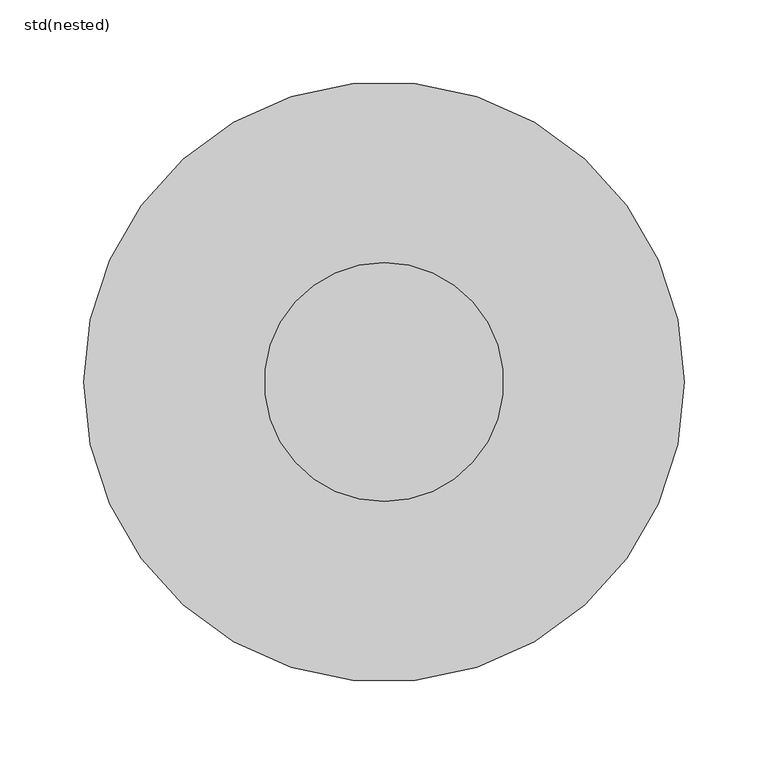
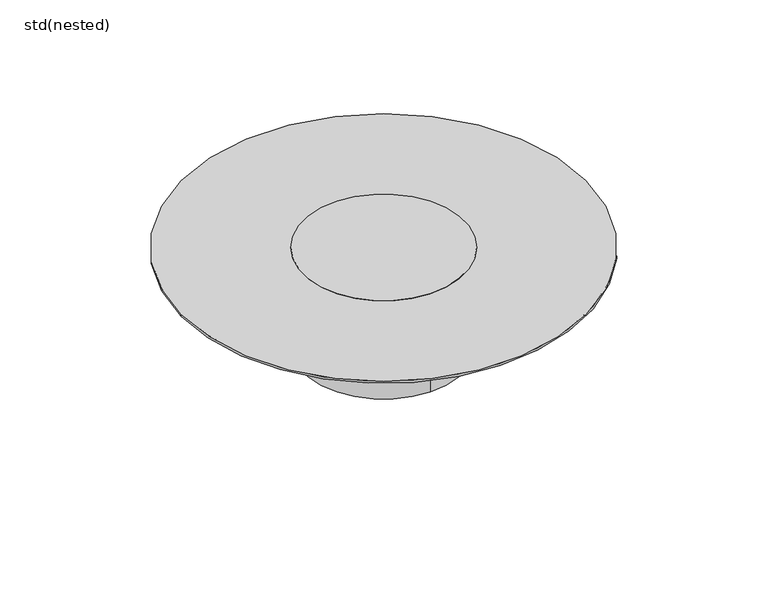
"""IFC4 building model written with IfcOpenShell, lengths in millimetres: sanitary terminal geometry, ZZZ_do not use_PF_ST_UN_raising piece telescopic hygienic gully_ACO : std(nested)."""

from ifc_helpers import new_model, si_unit, point, frame, origin, origin_with_axes, origin_2d, place, context, project, spatial, circle_curve, trimmed, segment, composite_curve, outline, extrude, source, transform, mapped, element, save
from ifc_brep_helpers import plane_surface, cylinder_surface, advanced_brep


def std_nested_b53d84c9(model_context):
    return source(origin(), model_context, "Body", "SolidModel", [
        extrude(outline(composite_curve([segment(trimmed(circle_curve(origin_2d(), 71.3), [point((0.0, -71.3))], [point((0.0, 71.3))], False, "CARTESIAN"), True, "CONTINUOUS"), segment(trimmed(circle_curve(origin_2d(), 71.3), [point((0.0, 71.3))], [point((0.0, -71.3))], False, "CARTESIAN"), True, "CONTINUOUS")], self_intersect=False)), frame((0.0, 0.0, -92.0), z_axis=(0.0, 0.0, 1.0), x_axis=(1.0, 0.0, 0.0)), (0.0, 0.0, 1.0), 92.0),
        advanced_brep(
        [(0.0, -78.5, -34.0), (0.0, 78.5, -34.0), (-179.0, 0.0, 0.0), (179.0, 0.0, 0.0), (0.0, -78.5, -2.0), (0.0, 78.5, -2.0), (-179.0, 0.0, -2.0), (179.0, 0.0, -2.0)],
        [
            (0, 1, circle_curve(frame((0.0, 0.0, -34.0), z_axis=(0.0, 0.0, -1.0), x_axis=(0.0, 1.0, 0.0)), 78.5)),
            (1, 0, circle_curve(frame((0.0, 0.0, -34.0), z_axis=(0.0, 0.0, -1.0), x_axis=(0.0, 1.0, 0.0)), 78.5)),
            (2, 3, circle_curve(origin_with_axes(), 179.0)),
            (3, 2, circle_curve(origin_with_axes(), 179.0)),
            (0, 4),
            (4, 5, circle_curve(frame((0.0, 0.0, -2.0), z_axis=(0.0, 0.0, -1.0), x_axis=(0.0, 1.0, 0.0)), 78.5)),
            (5, 1),
            (5, 4, circle_curve(frame((0.0, 0.0, -2.0), z_axis=(0.0, 0.0, -1.0), x_axis=(0.0, 1.0, 0.0)), 78.5)),
            (6, 7, circle_curve(frame((0.0, 0.0, -2.0), z_axis=(0.0, 0.0, -1.0), x_axis=(1.0, 0.0, 0.0)), 179.0)),
            (7, 6, circle_curve(frame((0.0, 0.0, -2.0), z_axis=(0.0, 0.0, -1.0), x_axis=(1.0, 0.0, 0.0)), 179.0)),
            (7, 3),
            (2, 6),
        ],
        [
            plane_surface(frame((0.0, 78.5, -34.0), z_axis=(0.0, 0.0, -1.0), x_axis=(1.0, 0.0, 0.0))),
            plane_surface(frame((0.0, 78.5, 0.0), z_axis=(0.0, 0.0, 1.0), x_axis=(-1.0, 0.0, 0.0))),
            cylinder_surface(frame((0.0, 0.0, 0.0), z_axis=(0.0, 0.0, -1.0), x_axis=(0.0, 1.0, 0.0)), 78.5),
            plane_surface(frame((179.0, 0.0, -2.0), z_axis=(0.0, 0.0, -1.0), x_axis=(0.0, -1.0, 0.0))),
            cylinder_surface(frame((0.0, 0.0, -2.0), z_axis=(0.0, 0.0, 1.0), x_axis=(1.0, 0.0, 0.0)), 179.0),
        ],
        [
            (0, [[1, 2]]),
            (1, [[3, 4]]),
            (2, [[-1, 5, 6, 7]]),
            (2, [[-2, -7, 8, -5]]),
            (3, [[9, 10], [-6, -8]]),
            (4, [[-10, 11, -3, 12]]),
            (4, [[-9, -12, -4, -11]]),
        ],
    ),
    ])


if __name__ == "__main__":
    model = new_model("IFC4")
    model_context = context("Model", 3, world=origin())
    ifc_project = project(units=[si_unit("LENGTHUNIT", "METRE", prefix="MILLI")], contexts=[model_context])
    site = spatial("IfcSite", under=ifc_project)
    building = spatial("IfcBuilding", under=site)
    placement = place(None, origin())
    std_nested_shape = std_nested_b53d84c9(model_context)
    element("IfcSanitaryTerminal", 1, ObjectType="ZZZ_do not use_PF_ST_UN_raising piece telescopic hygienic gully_ACO : std(nested)", at=placement, inside=building, context=model_context, shape_type="MappedRepresentation", body=[
        mapped(std_nested_shape, transform((0.0, 0.0, 0.0), x_axis=(1.0, 0.0, 0.0), y_axis=(0.0, 1.0, 0.0), z_axis=(0.0, 0.0, 1.0))),
    ])
    save(model, "model.ifc")
